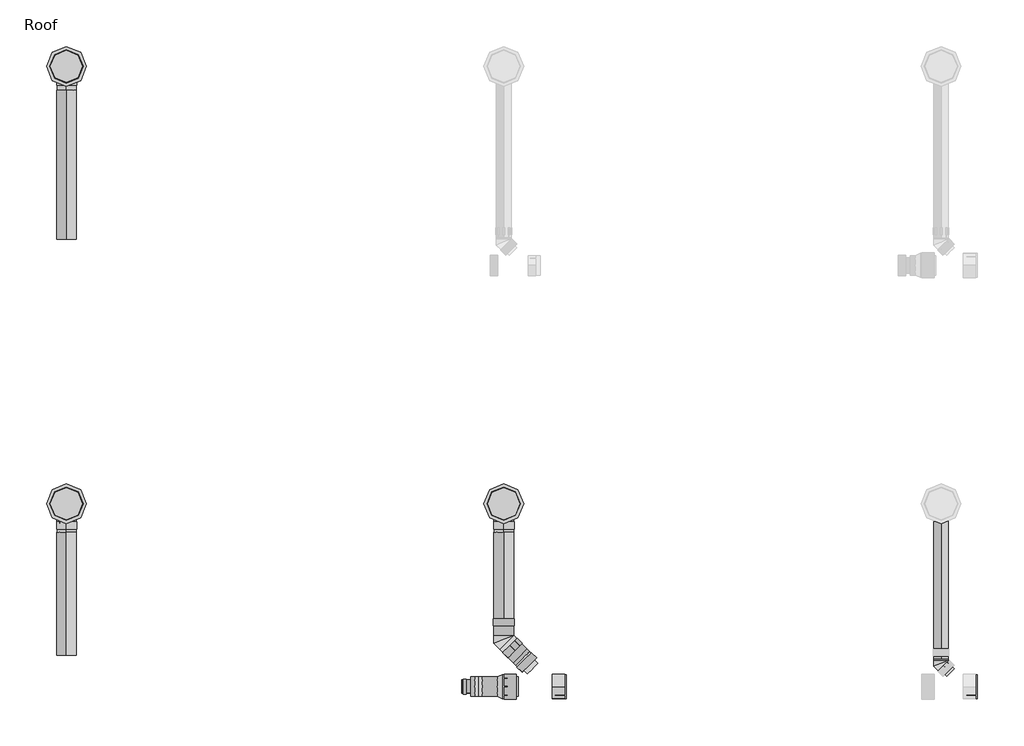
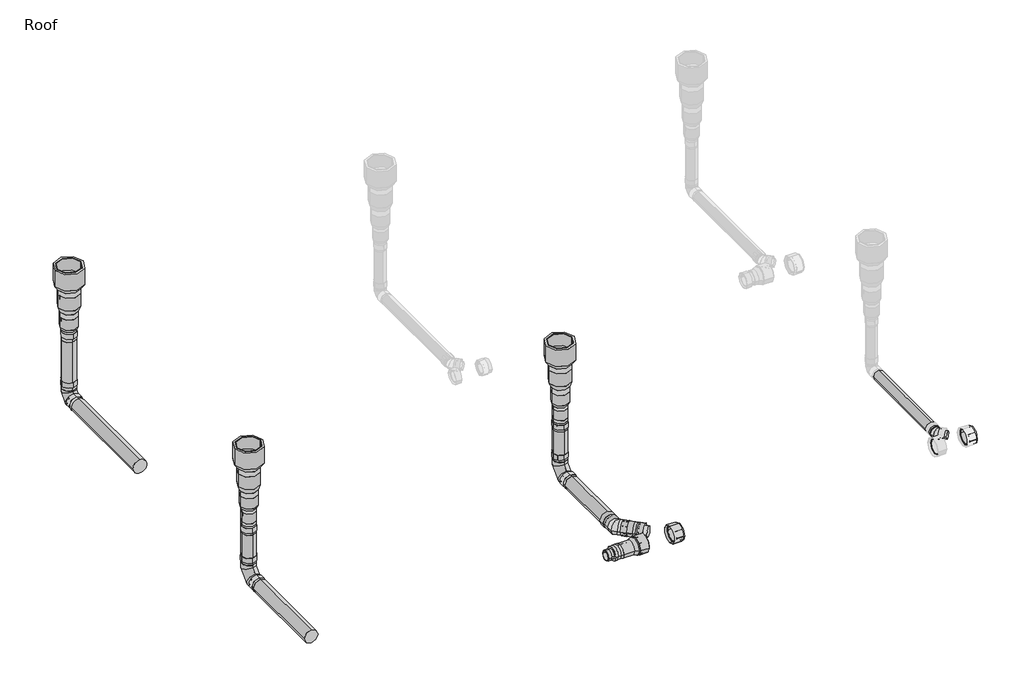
# One storey, part 1 of 2: 72 pipe fittings, 7 pipe segments.
"""IFC4 building model written with IfcOpenShell, lengths in millimetres."""

from ifc_helpers import new_model, si_unit, point, frame, frame_2d, origin, place, context, project, spatial, circle_curve, trimmed, segment, composite_curve, outline, extrude, transform, mapped, element, save
from components import single_bend_deb9c283, single_bend_0c2247d4, std_26593bc8, std_e68f9b3b, std_nested_457d7e35, std_nested_42e1da43, std_nested_46ab66b3, std_nested_0347eb02, std_nested_ff61fb87, std_nested_b22cb0b6, std_nested_3dcc5080, std_nested_a7162979, std_nested_f8058470, std_nested_a1955cf2, std_nested_11fffc4d, std_nested_bf630df5, std_nested_90d89c33, std_nested_8d21ddc5, std_nested_869c05a1, std_nested_4c8aca36, std_nested_1c860d80, std_nested_eee07551, std_nested_e8fa1f76, std_nested_0b464fec, std_nested_b675cc4e, std_nested_34ded061, std_nested_acabc59b, std_nested_76065840, std_nested_33cd05bf, unequal_dcafacf3, unequal_56231cc0

model = new_model("IFC4")

# Units and contexts
model_context = context("Model", 3, world=origin())
ifc_project = project(units=[si_unit("LENGTHUNIT", "METRE", prefix="MILLI")], contexts=[model_context])

# Site, building, storey
site = spatial("IfcSite", under=ifc_project)
building = spatial("IfcBuilding", under=site)
storey = spatial("IfcBuildingStorey", under=building, Name="Roof", Elevation=8000.0)

# Pipe fittings
placement = place(None, origin())
single_bend_shape = single_bend_deb9c283(model_context)
element("IfcPipeFitting", 1, ObjectType="PIF_ST_UN_GM-X compound pipe multi-bend_ACO : single bend", at=placement, inside=storey, context=model_context, shape_type="MappedRepresentation", body=[
    mapped(single_bend_shape, transform((-17814.684142, 6588.0682309, 6367.4522786), x_axis=(0.0, 0.0, -1.0), y_axis=(0.0, -1.0, 0.0), z_axis=(-1.0, 0.0, 0.0))),
])
single_bend_2_shape = single_bend_0c2247d4(model_context)
element("IfcPipeFitting", 2, ObjectType="PIF_ST_UN_GM-X compound pipe multi-bend_ACO : single bend", at=placement, inside=storey, context=model_context, shape_type="MappedRepresentation", body=[
    mapped(single_bend_2_shape, transform((-14814.684142, 3588.0682309, 6367.4522786), x_axis=(0.0, 0.0, -1.0), y_axis=(0.0, -1.0, 0.0), z_axis=(-1.0, 0.0, 0.0))),
])
element("IfcPipeFitting", 3, ObjectType="PIF_ST_UN_GM-X compound pipe multi-bend_ACO : single bend", at=placement, inside=storey, context=model_context, shape_type="MappedRepresentation", body=[
    mapped(single_bend_2_shape, transform((-17814.684142, 3588.0682309, 6367.4522786), x_axis=(0.0, 0.0, -1.0), y_axis=(0.0, -1.0, 0.0), z_axis=(-1.0, 0.0, 0.0))),
])
std_shape = std_26593bc8(model_context)
element("IfcPipeFitting", 4, ObjectType="PIF_ST_UN_GM-X compound pipe multi-optimiser (transition)_ACO : std", at=placement, inside=storey, context=model_context, shape_type="MappedRepresentation", body=[
    mapped(std_shape, transform((-17814.684142, 6588.0682309, 7573.302388), x_axis=(0.0, 0.0, -1.0), y_axis=(1.0, 0.0, 0.0), z_axis=(0.0, -1.0, 0.0))),
])
std_2_shape = std_e68f9b3b(model_context)
element("IfcPipeFitting", 5, ObjectType="PIF_ST_UN_GM-X compound pipe multi-optimiser (transition)_ACO : std", at=placement, inside=storey, context=model_context, shape_type="MappedRepresentation", body=[
    mapped(std_2_shape, transform((-14814.684142, 3588.0682309, 7573.302388), x_axis=(0.0, 0.0, -1.0), y_axis=(1.0, 0.0, 0.0), z_axis=(0.0, -1.0, 0.0))),
])
element("IfcPipeFitting", 6, ObjectType="PIF_ST_UN_GM-X compound pipe multi-optimiser (transition)_ACO : std", at=placement, inside=storey, context=model_context, shape_type="MappedRepresentation", body=[
    mapped(std_2_shape, transform((-17814.684142, 3588.0682309, 7573.302388), x_axis=(0.0, 0.0, -1.0), y_axis=(1.0, 0.0, 0.0), z_axis=(0.0, -1.0, 0.0))),
])
std_nested_shape = std_nested_457d7e35(model_context)
element("IfcPipeFitting", 7, ObjectType="ZZZ_do not use_PIF_GEN_WPB_GM-X (compound) pipe seal_ACO : std (nested)", at=placement, inside=storey, context=model_context, shape_type="MappedRepresentation", body=[
    mapped(std_nested_shape, transform((-17814.684142, 6426.6682309, 6367.4522786), x_axis=(0.0, 0.0, -1.0), y_axis=(1.0, 0.0, 0.0), z_axis=(0.0, -1.0, 0.0))),
])
std_nested_2_shape = std_nested_42e1da43(model_context)
element("IfcPipeFitting", 8, ObjectType="ZZZ_do not use_PIF_GEN_WPB_GM-X (compound) pipe seal_ACO : std (nested)", at=placement, inside=storey, context=model_context, shape_type="MappedRepresentation", body=[
    mapped(std_nested_2_shape, transform((-17814.684142, 6588.0682309, 6528.8522786), x_axis=(0.0, -1.0, 0.0), y_axis=(1.0, 0.0, 0.0), z_axis=(0.0, 0.0, 1.0))),
])
element("IfcPipeFitting", 9, ObjectType="ZZZ_do not use_PIF_GEN_WPB_GM-X (compound) pipe seal_ACO : std (nested)", at=placement, inside=storey, context=model_context, shape_type="MappedRepresentation", body=[
    mapped(std_nested_2_shape, transform((-14665.3431898, 2508.0561932, 6367.4522786), x_axis=(0.7071067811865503, 0.7071067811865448, 0.0), y_axis=(0.0, 0.0, -1.0000000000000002), z_axis=(-0.7071067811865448, 0.7071067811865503, 0.0))),
])
element("IfcPipeFitting", 10, ObjectType="ZZZ_do not use_PIF_GEN_WPB_GM-X (compound) pipe seal_ACO : std (nested)", at=placement, inside=storey, context=model_context, shape_type="MappedRepresentation", body=[
    mapped(std_nested_2_shape, transform((-14961.3949216, 2334.1079251, 6367.4522786), x_axis=(0.0, 1.0, 0.0), y_axis=(0.0, 0.0, -1.0), z_axis=(-1.0, 0.0, 0.0))),
])
std_nested_3_shape = std_nested_46ab66b3(model_context)
element("IfcPipeFitting", 11, ObjectType="ZZZ_do not use_PIF_GEN_WPB_GM-X (compound) pipe seal_ACO : std (nested)", at=placement, inside=storey, context=model_context, shape_type="MappedRepresentation", body=[
    mapped(std_nested_3_shape, transform((-11924.8780094, 2334.1079251, 6367.4522786), x_axis=(0.0, 1.0, 0.0), y_axis=(0.0, 0.0, -1.0), z_axis=(-1.0, 0.0, 0.0))),
])
element("IfcPipeFitting", 12, ObjectType="ZZZ_do not use_PIF_GEN_WPB_GM-X (compound) pipe seal_ACO : std (nested)", at=placement, inside=storey, context=model_context, shape_type="MappedRepresentation", body=[
    mapped(std_nested_3_shape, transform((-14791.3949216, 2334.1079251, 6367.4522786), x_axis=(0.0, 1.0, 0.0), y_axis=(0.0, 0.0, -1.0), z_axis=(-1.0, 0.0, 0.0))),
])
std_nested_4_shape = std_nested_0347eb02(model_context)
element("IfcPipeFitting", 13, ObjectType="ZZZ_do not use_PIF_GEN_WPB_GM-X (compound) pipe seal_ACO : std (nested)", at=placement, inside=storey, context=model_context, shape_type="MappedRepresentation", body=[
    mapped(std_nested_4_shape, transform((-11814.684142, 2579.9140576, 6367.4522786), x_axis=(-1.0, 0.0, 0.0), y_axis=(0.0, 0.0, 1.0000000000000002), z_axis=(0.0, 1.0, 0.0))),
])
element("IfcPipeFitting", 14, ObjectType="ZZZ_do not use_PIF_GEN_WPB_GM-X (compound) pipe seal_ACO : std (nested)", at=placement, inside=storey, context=model_context, shape_type="MappedRepresentation", body=[
    mapped(std_nested_4_shape, transform((-11789.2282978, 2468.4582135, 6367.4522786), x_axis=(0.7071067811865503, 0.7071067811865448, 0.0), y_axis=(0.0, 0.0, -1.0000000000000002), z_axis=(-0.7071067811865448, 0.7071067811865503, 0.0))),
])
std_nested_5_shape = std_nested_ff61fb87(model_context)
element("IfcPipeFitting", 15, ObjectType="ZZZ_do not use_PIF_ST_WPB_GM-X compound pipe clamp_ACO : std (nested)", at=placement, inside=storey, context=model_context, shape_type="MappedRepresentation", body=[
    mapped(std_nested_5_shape, transform((-17814.684142, 6426.6682309, 6367.4522786), x_axis=(0.0, 0.0, -1.0), y_axis=(1.0, 0.0, 0.0), z_axis=(0.0, -1.0, 0.0))),
])
std_nested_6_shape = std_nested_b22cb0b6(model_context)
element("IfcPipeFitting", 16, ObjectType="ZZZ_do not use_PIF_GEN_WPB_GM-X (compound) pipe seal_ACO : std (nested)", at=placement, inside=storey, context=model_context, shape_type="MappedRepresentation", body=[
    mapped(std_nested_6_shape, transform((-11564.8780094, 2334.1079251, 6367.4522786), x_axis=(0.0, 0.0, -1.0), y_axis=(0.0, 1.0, 0.0), z_axis=(1.0, 0.0, 0.0))),
])
element("IfcPipeFitting", 17, ObjectType="ZZZ_do not use_PIF_GEN_WPB_GM-X (compound) pipe seal_ACO : std (nested)", at=placement, inside=storey, context=model_context, shape_type="MappedRepresentation", body=[
    mapped(std_nested_6_shape, transform((-14386.3949216, 2334.1079251, 6367.4522786), x_axis=(0.0, 0.0, -1.0), y_axis=(0.0, 1.0, 0.0), z_axis=(1.0, 0.0, 0.0))),
])
std_nested_7_shape = std_nested_3dcc5080(model_context)
element("IfcPipeFitting", 18, ObjectType="ZZZ_do not use_PIF_GEN_WPB_GM-X (compound) pipe seal_ACO : std (nested)", at=placement, inside=storey, context=model_context, shape_type="MappedRepresentation", body=[
    mapped(std_nested_7_shape, transform((-17814.684142, 6588.0682309, 7428.302388), x_axis=(-1.0, 0.0, 0.0), y_axis=(0.0, -1.0, 0.0), z_axis=(0.0, 0.0, 1.0))),
])
element("IfcPipeFitting", 19, ObjectType="ZZZ_do not use_PIF_GEN_WPB_GM-X (compound) pipe seal_ACO : std (nested)", at=placement, inside=storey, context=model_context, shape_type="MappedRepresentation", body=[
    mapped(std_nested_7_shape, transform((-14814.684142, 3588.0682309, 7428.302388), x_axis=(-1.0, 0.0, 0.0), y_axis=(0.0, -1.0, 0.0), z_axis=(0.0, 0.0, 1.0))),
])
element("IfcPipeFitting", 20, ObjectType="ZZZ_do not use_PIF_GEN_WPB_GM-X (compound) pipe seal_ACO : std (nested)", at=placement, inside=storey, context=model_context, shape_type="MappedRepresentation", body=[
    mapped(std_nested_7_shape, transform((-17814.684142, 3588.0682309, 7428.302388), x_axis=(-1.0, 0.0, 0.0), y_axis=(0.0, -1.0, 0.0), z_axis=(0.0, 0.0, 1.0))),
])
element("IfcPipeFitting", 21, ObjectType="ZZZ_do not use_PIF_GEN_WPB_GM-X (compound) pipe seal_ACO : std (nested)", at=placement, inside=storey, context=model_context, shape_type="MappedRepresentation", body=[
    mapped(std_nested_3_shape, transform((-17814.684142, 6588.0682309, 7193.302388), x_axis=(-1.0, 0.0, 0.0), y_axis=(0.0, -1.0, 0.0), z_axis=(0.0, 0.0, 1.0))),
])
element("IfcPipeFitting", 22, ObjectType="ZZZ_do not use_PIF_GEN_WPB_GM-X (compound) pipe seal_ACO : std (nested)", at=placement, inside=storey, context=model_context, shape_type="MappedRepresentation", body=[
    mapped(std_nested_3_shape, transform((-14814.684142, 3588.0682309, 7193.302388), x_axis=(-1.0, 0.0, 0.0), y_axis=(0.0, -1.0, 0.0), z_axis=(0.0, 0.0, 1.0))),
])
element("IfcPipeFitting", 23, ObjectType="ZZZ_do not use_PIF_GEN_WPB_GM-X (compound) pipe seal_ACO : std (nested)", at=placement, inside=storey, context=model_context, shape_type="MappedRepresentation", body=[
    mapped(std_nested_3_shape, transform((-17814.684142, 3588.0682309, 7193.302388), x_axis=(-1.0, 0.0, 0.0), y_axis=(0.0, -1.0, 0.0), z_axis=(0.0, 0.0, 1.0))),
])
element("IfcPipeFitting", 24, ObjectType="ZZZ_do not use_PIF_GEN_WPB_GM-X (compound) pipe seal_ACO : std (nested)", at=placement, inside=storey, context=model_context, shape_type="MappedRepresentation", body=[
    mapped(std_nested_shape, transform((-17814.684142, 6588.0682309, 6953.302388), x_axis=(0.0, 1.0, 0.0), y_axis=(1.0, 0.0, 0.0), z_axis=(0.0, 0.0, -1.0))),
])
std_nested_8_shape = std_nested_a7162979(model_context)
element("IfcPipeFitting", 25, ObjectType="ZZZ_do not use_PIF_GEN_WPB_GM-X (compound) pipe seal_ACO : std (nested)", at=placement, inside=storey, context=model_context, shape_type="MappedRepresentation", body=[
    mapped(std_nested_8_shape, transform((-17814.684142, 6588.0682309, 7693.302388), x_axis=(-1.0, 0.0, 0.0), y_axis=(0.0, -1.0, 0.0), z_axis=(0.0, 0.0, 1.0))),
])
element("IfcPipeFitting", 26, ObjectType="ZZZ_do not use_PIF_GEN_WPB_GM-X (compound) pipe seal_ACO : std (nested)", at=placement, inside=storey, context=model_context, shape_type="MappedRepresentation", body=[
    mapped(std_nested_8_shape, transform((-14814.684142, 3588.0682309, 7693.302388), x_axis=(-1.0, 0.0, 0.0), y_axis=(0.0, -1.0, 0.0), z_axis=(0.0, 0.0, 1.0))),
])
element("IfcPipeFitting", 27, ObjectType="ZZZ_do not use_PIF_GEN_WPB_GM-X (compound) pipe seal_ACO : std (nested)", at=placement, inside=storey, context=model_context, shape_type="MappedRepresentation", body=[
    mapped(std_nested_8_shape, transform((-17814.684142, 3588.0682309, 7693.302388), x_axis=(-1.0, 0.0, 0.0), y_axis=(0.0, -1.0, 0.0), z_axis=(0.0, 0.0, 1.0))),
])
element("IfcPipeFitting", 28, ObjectType="ZZZ_do not use_PIF_GEN_WPB_GM-X (compound) pipe seal_ACO : std (nested)", at=placement, inside=storey, context=model_context, shape_type="MappedRepresentation", body=[
    mapped(std_nested_2_shape, transform((-14814.684142, 3588.0682309, 7023.302388), x_axis=(-1.0, 0.0, 0.0), y_axis=(0.0, -1.0, 0.0), z_axis=(0.0, 0.0, 1.0))),
])
element("IfcPipeFitting", 29, ObjectType="ZZZ_do not use_PIF_GEN_WPB_GM-X (compound) pipe seal_ACO : std (nested)", at=placement, inside=storey, context=model_context, shape_type="MappedRepresentation", body=[
    mapped(std_nested_2_shape, transform((-17814.684142, 3588.0682309, 7023.302388), x_axis=(-1.0, 0.0, 0.0), y_axis=(0.0, -1.0, 0.0), z_axis=(0.0, 0.0, 1.0))),
])
std_nested_9_shape = std_nested_f8058470(model_context)
element("IfcPipeFitting", 30, ObjectType="ZZZ_do not use_PIF_GEN_WPB_GM-X (compound) pipe seal_ACO : std (nested)", at=placement, inside=storey, context=model_context, shape_type="MappedRepresentation", body=[
    mapped(std_nested_9_shape, transform((-14814.684142, 3588.0682309, 6563.0522786), x_axis=(0.0, -1.0, 0.0), y_axis=(1.0, 0.0, 0.0), z_axis=(0.0, 0.0, 1.0))),
])
element("IfcPipeFitting", 31, ObjectType="ZZZ_do not use_PIF_GEN_WPB_GM-X (compound) pipe seal_ACO : std (nested)", at=placement, inside=storey, context=model_context, shape_type="MappedRepresentation", body=[
    mapped(std_nested_9_shape, transform((-14814.684142, 2787.8971454, 6367.4522786), x_axis=(-1.0, 0.0, 0.0), y_axis=(0.0, 0.0, 1.0000000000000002), z_axis=(0.0, 1.0, 0.0))),
])
element("IfcPipeFitting", 32, ObjectType="ZZZ_do not use_PIF_GEN_WPB_GM-X (compound) pipe seal_ACO : std (nested)", at=placement, inside=storey, context=model_context, shape_type="MappedRepresentation", body=[
    mapped(std_nested_9_shape, transform((-17814.684142, 3588.0682309, 6563.0522786), x_axis=(0.0, -1.0, 0.0), y_axis=(1.0, 0.0, 0.0), z_axis=(0.0, 0.0, 1.0))),
])
element("IfcPipeFitting", 33, ObjectType="ZZZ_do not use_PIF_GEN_WPB_GM-X (compound) pipe seal_ACO : std (nested)", at=placement, inside=storey, context=model_context, shape_type="MappedRepresentation", body=[
    mapped(std_nested_9_shape, transform((-14764.3381391, 2607.0511426, 6367.4522786), x_axis=(0.7071067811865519, 0.7071067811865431, 0.0), y_axis=(0.0, 0.0, -1.0), z_axis=(-0.7071067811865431, 0.7071067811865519, 0.0))),
])
element("IfcPipeFitting", 34, ObjectType="ZZZ_do not use_PIF_GEN_WPB_GM-X (compound) pipe seal_ACO : std (nested)", at=placement, inside=storey, context=model_context, shape_type="MappedRepresentation", body=[
    mapped(std_nested_9_shape, transform((-15101.3949216, 2334.1079251, 6367.4522786), x_axis=(0.0, 1.0, 0.0), y_axis=(0.0, 0.0, -1.0), z_axis=(-1.0, 0.0, 0.0))),
])
std_nested_10_shape = std_nested_a1955cf2(model_context)
element("IfcPipeFitting", 35, ObjectType="ZZZ_do not use_PIF_GEN_WPB_GM-X (compound) pipe seal_ACO : std (nested)", at=placement, inside=storey, context=model_context, shape_type="MappedRepresentation", body=[
    mapped(std_nested_10_shape, transform((-14814.684142, 3392.4682309, 6367.4522786), x_axis=(0.0, 0.0, -1.0), y_axis=(1.0, 0.0, 0.0), z_axis=(0.0, -1.0, 0.0))),
])
element("IfcPipeFitting", 36, ObjectType="ZZZ_do not use_PIF_GEN_WPB_GM-X (compound) pipe seal_ACO : std (nested)", at=placement, inside=storey, context=model_context, shape_type="MappedRepresentation", body=[
    mapped(std_nested_10_shape, transform((-17814.684142, 3392.4682309, 6367.4522786), x_axis=(0.0, 0.0, -1.0), y_axis=(1.0, 0.0, 0.0), z_axis=(0.0, -1.0, 0.0))),
])
element("IfcPipeFitting", 37, ObjectType="ZZZ_do not use_PIF_GEN_WPB_GM-X (compound) pipe seal_ACO : std (nested)", at=placement, inside=storey, context=model_context, shape_type="MappedRepresentation", body=[
    mapped(std_nested_10_shape, transform((-14814.684142, 3588.0682309, 6808.302388), x_axis=(0.0, 1.0, 0.0), y_axis=(1.0, 0.0, 0.0), z_axis=(0.0, 0.0, -1.0))),
])
element("IfcPipeFitting", 38, ObjectType="ZZZ_do not use_PIF_GEN_WPB_GM-X (compound) pipe seal_ACO : std (nested)", at=placement, inside=storey, context=model_context, shape_type="MappedRepresentation", body=[
    mapped(std_nested_10_shape, transform((-17814.684142, 3588.0682309, 6808.302388), x_axis=(0.0, 1.0, 0.0), y_axis=(1.0, 0.0, 0.0), z_axis=(0.0, 0.0, -1.0))),
])
std_nested_11_shape = std_nested_11fffc4d(model_context)
element("IfcPipeFitting", 39, ObjectType="ZZZ_do not use_PIF_ST_WPB_GM-X compound pipe clamp_ACO : std (nested)", at=placement, inside=storey, context=model_context, shape_type="MappedRepresentation", body=[
    mapped(std_nested_11_shape, transform((-14814.684142, 3392.4682309, 6367.4522786), x_axis=(0.0, 0.0, -1.0), y_axis=(1.0, 0.0, 0.0), z_axis=(0.0, -1.0, 0.0))),
])
element("IfcPipeFitting", 40, ObjectType="ZZZ_do not use_PIF_ST_WPB_GM-X compound pipe clamp_ACO : std (nested)", at=placement, inside=storey, context=model_context, shape_type="MappedRepresentation", body=[
    mapped(std_nested_11_shape, transform((-17814.684142, 3392.4682309, 6367.4522786), x_axis=(0.0, 0.0, -1.0), y_axis=(1.0, 0.0, 0.0), z_axis=(0.0, -1.0, 0.0))),
])
std_nested_12_shape = std_nested_bf630df5(model_context)
element("IfcPipeFitting", 41, ObjectType="ZZZ_do not use_PIF_ST_WPB_GM-X compound pipe clamp_ACO : std (nested)", at=placement, inside=storey, context=model_context, shape_type="MappedRepresentation", body=[
    mapped(std_nested_12_shape, transform((-17814.684142, 6588.0682309, 6528.8522786), x_axis=(0.0, -1.0, 0.0), y_axis=(1.0, 0.0, 0.0), z_axis=(0.0, 0.0, 1.0))),
])
element("IfcPipeFitting", 42, ObjectType="ZZZ_do not use_PIF_ST_WPB_GM-X compound pipe clamp_ACO : std (nested)", at=placement, inside=storey, context=model_context, shape_type="MappedRepresentation", body=[
    mapped(std_nested_12_shape, transform((-14665.3431898, 2508.0561932, 6367.4522786), x_axis=(0.7071067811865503, 0.7071067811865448, 0.0), y_axis=(0.0, 0.0, -1.0000000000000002), z_axis=(-0.7071067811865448, 0.7071067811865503, 0.0))),
])
element("IfcPipeFitting", 43, ObjectType="ZZZ_do not use_PIF_ST_WPB_GM-X compound pipe clamp_ACO : std (nested)", at=placement, inside=storey, context=model_context, shape_type="MappedRepresentation", body=[
    mapped(std_nested_12_shape, transform((-14814.684142, 3588.0682309, 6563.0522786), x_axis=(0.0, -1.0, 0.0), y_axis=(1.0, 0.0, 0.0), z_axis=(0.0, 0.0, 1.0))),
])
element("IfcPipeFitting", 44, ObjectType="ZZZ_do not use_PIF_ST_WPB_GM-X compound pipe clamp_ACO : std (nested)", at=placement, inside=storey, context=model_context, shape_type="MappedRepresentation", body=[
    mapped(std_nested_12_shape, transform((-17814.684142, 3588.0682309, 6563.0522786), x_axis=(0.0, -1.0, 0.0), y_axis=(1.0, 0.0, 0.0), z_axis=(0.0, 0.0, 1.0))),
])
element("IfcPipeFitting", 45, ObjectType="ZZZ_do not use_PIF_ST_WPB_GM-X compound pipe clamp_ACO : std (nested)", at=placement, inside=storey, context=model_context, shape_type="MappedRepresentation", body=[
    mapped(std_nested_12_shape, transform((-14814.684142, 2787.8971454, 6367.4522786), x_axis=(-1.0, 0.0, 0.0), y_axis=(0.0, 0.0, 1.0000000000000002), z_axis=(0.0, 1.0, 0.0))),
])
element("IfcPipeFitting", 46, ObjectType="ZZZ_do not use_PIF_ST_WPB_GM-X compound pipe clamp_ACO : std (nested)", at=placement, inside=storey, context=model_context, shape_type="MappedRepresentation", body=[
    mapped(std_nested_12_shape, transform((-14764.3381391, 2607.0511426, 6367.4522786), x_axis=(0.7071067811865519, 0.7071067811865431, 0.0), y_axis=(0.0, 0.0, -1.0), z_axis=(-0.7071067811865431, 0.7071067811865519, 0.0))),
])
std_nested_13_shape = std_nested_90d89c33(model_context)
element("IfcPipeFitting", 47, ObjectType="ZZZ_do not use_PIF_ST_WPB_GM-X compound pipe clamp_ACO : std (nested)", at=placement, inside=storey, context=model_context, shape_type="MappedRepresentation", body=[
    mapped(std_nested_13_shape, transform((-14791.3949216, 2334.1079251, 6367.4522786), x_axis=(0.0, 1.0, 0.0), y_axis=(0.0, 0.0, -1.0), z_axis=(-1.0, 0.0, 0.0))),
])
std_nested_14_shape = std_nested_8d21ddc5(model_context)
element("IfcPipeFitting", 48, ObjectType="ZZZ_do not use_PIF_ST_WPB_GM-X compound pipe clamp_ACO : std (nested)", at=placement, inside=storey, context=model_context, shape_type="MappedRepresentation", body=[
    mapped(std_nested_14_shape, transform((-14386.3949216, 2334.1079251, 6367.4522786), x_axis=(0.0, 0.0, -1.0), y_axis=(0.0, 1.0, 0.0), z_axis=(1.0, 0.0, 0.0))),
])
element("IfcPipeFitting", 49, ObjectType="ZZZ_do not use_PIF_ST_WPB_GM-X compound pipe clamp_ACO : std (nested)", at=placement, inside=storey, context=model_context, shape_type="MappedRepresentation", body=[
    mapped(std_nested_5_shape, transform((-17814.684142, 6588.0682309, 6953.302388), x_axis=(0.0, 1.0, 0.0), y_axis=(1.0, 0.0, 0.0), z_axis=(0.0, 0.0, -1.0))),
])
element("IfcPipeFitting", 50, ObjectType="ZZZ_do not use_PIF_ST_WPB_GM-X compound pipe clamp_ACO : std (nested)", at=placement, inside=storey, context=model_context, shape_type="MappedRepresentation", body=[
    mapped(std_nested_11_shape, transform((-14814.684142, 3588.0682309, 6808.302388), x_axis=(0.0, 1.0, 0.0), y_axis=(1.0, 0.0, 0.0), z_axis=(0.0, 0.0, -1.0))),
])
element("IfcPipeFitting", 51, ObjectType="ZZZ_do not use_PIF_ST_WPB_GM-X compound pipe clamp_ACO : std (nested)", at=placement, inside=storey, context=model_context, shape_type="MappedRepresentation", body=[
    mapped(std_nested_11_shape, transform((-17814.684142, 3588.0682309, 6808.302388), x_axis=(0.0, 1.0, 0.0), y_axis=(1.0, 0.0, 0.0), z_axis=(0.0, 0.0, -1.0))),
])
std_nested_15_shape = std_nested_869c05a1(model_context)
element("IfcPipeFitting", 52, ObjectType="ZZZ_do not use_PIF_ST_WPB_GM-X compound pipe bend_ACO : std (nested)", at=placement, inside=storey, context=model_context, shape_type="MappedRepresentation", body=[
    mapped(std_nested_15_shape, transform((-17814.684142, 6588.0682309, 6367.4522786), x_axis=(0.0, 0.0, -1.0), y_axis=(0.0, -1.0, 0.0), z_axis=(-1.0, 0.0, 0.0))),
])
std_nested_16_shape = std_nested_4c8aca36(model_context)
element("IfcPipeFitting", 53, ObjectType="ZZZ_do not use_PIF_ST_WPB_GM-X compound pipe optimiser_ACO : std (nested)", at=placement, inside=storey, context=model_context, shape_type="MappedRepresentation", body=[
    mapped(std_nested_16_shape, transform((-17814.684142, 6588.0682309, 7573.302388), x_axis=(0.0, 0.0, -1.0), y_axis=(1.0, 0.0, 0.0), z_axis=(0.0, -1.0, 0.0))),
])
element("IfcPipeFitting", 54, ObjectType="ZZZ_do not use_PIF_ST_WPB_GM-X compound pipe optimiser_ACO : std (nested)", at=placement, inside=storey, context=model_context, shape_type="MappedRepresentation", body=[
    mapped(std_nested_16_shape, transform((-14814.684142, 3588.0682309, 7573.302388), x_axis=(0.0, 0.0, -1.0), y_axis=(1.0, 0.0, 0.0), z_axis=(0.0, -1.0, 0.0))),
])
element("IfcPipeFitting", 55, ObjectType="ZZZ_do not use_PIF_ST_WPB_GM-X compound pipe optimiser_ACO : std (nested)", at=placement, inside=storey, context=model_context, shape_type="MappedRepresentation", body=[
    mapped(std_nested_16_shape, transform((-17814.684142, 3588.0682309, 7573.302388), x_axis=(0.0, 0.0, -1.0), y_axis=(1.0, 0.0, 0.0), z_axis=(0.0, -1.0, 0.0))),
])
std_nested_17_shape = std_nested_1c860d80(model_context)
element("IfcPipeFitting", 56, ObjectType="ZZZ_do not use_PIF_ST_WPB_GM-X compound pipe optimiser_ACO : std (nested)", at=placement, inside=storey, context=model_context, shape_type="MappedRepresentation", body=[
    mapped(std_nested_17_shape, transform((-17814.684142, 6588.0682309, 7348.302388), x_axis=(0.0, 0.0, -1.0), y_axis=(1.0, 0.0, 0.0), z_axis=(0.0, -1.0, 0.0))),
])
element("IfcPipeFitting", 57, ObjectType="ZZZ_do not use_PIF_ST_WPB_GM-X compound pipe optimiser_ACO : std (nested)", at=placement, inside=storey, context=model_context, shape_type="MappedRepresentation", body=[
    mapped(std_nested_17_shape, transform((-14814.684142, 3588.0682309, 7348.302388), x_axis=(0.0, 0.0, -1.0), y_axis=(1.0, 0.0, 0.0), z_axis=(0.0, -1.0, 0.0))),
])
element("IfcPipeFitting", 58, ObjectType="ZZZ_do not use_PIF_ST_WPB_GM-X compound pipe optimiser_ACO : std (nested)", at=placement, inside=storey, context=model_context, shape_type="MappedRepresentation", body=[
    mapped(std_nested_17_shape, transform((-17814.684142, 3588.0682309, 7348.302388), x_axis=(0.0, 0.0, -1.0), y_axis=(1.0, 0.0, 0.0), z_axis=(0.0, -1.0, 0.0))),
])
std_nested_18_shape = std_nested_eee07551(model_context)
element("IfcPipeFitting", 59, ObjectType="ZZZ_do not use_PIF_ST_WPB_GM-X compound pipe optimiser_ACO : std (nested)", at=placement, inside=storey, context=model_context, shape_type="MappedRepresentation", body=[
    mapped(std_nested_18_shape, transform((-17814.684142, 6588.0682309, 7118.302388), x_axis=(0.0, 0.0, -1.0), y_axis=(1.0, 0.0, 0.0), z_axis=(0.0, -1.0, 0.0))),
])
element("IfcPipeFitting", 60, ObjectType="ZZZ_do not use_PIF_ST_WPB_GM-X compound pipe optimiser_ACO : std (nested)", at=placement, inside=storey, context=model_context, shape_type="MappedRepresentation", body=[
    mapped(std_nested_18_shape, transform((-14814.684142, 3588.0682309, 7118.302388), x_axis=(0.0, 0.0, -1.0), y_axis=(1.0, 0.0, 0.0), z_axis=(0.0, -1.0, 0.0))),
])
element("IfcPipeFitting", 61, ObjectType="ZZZ_do not use_PIF_ST_WPB_GM-X compound pipe optimiser_ACO : std (nested)", at=placement, inside=storey, context=model_context, shape_type="MappedRepresentation", body=[
    mapped(std_nested_18_shape, transform((-17814.684142, 3588.0682309, 7118.302388), x_axis=(0.0, 0.0, -1.0), y_axis=(1.0, 0.0, 0.0), z_axis=(0.0, -1.0, 0.0))),
])
std_nested_19_shape = std_nested_e8fa1f76(model_context)
element("IfcPipeFitting", 62, ObjectType="ZZZ_do not use_PIF_ST_WPB_GM-X compound pipe bend_ACO : std (nested)", at=placement, inside=storey, context=model_context, shape_type="MappedRepresentation", body=[
    mapped(std_nested_19_shape, transform((-11814.684142, 2493.9140576, 6367.4522786), x_axis=(-0.7071067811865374, 0.7071067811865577, 0.0), y_axis=(0.7071067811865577, 0.7071067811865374, 0.0), z_axis=(0.0, 0.0, -1.0))),
])
std_nested_20_shape = std_nested_0b464fec(model_context)
element("IfcPipeFitting", 63, ObjectType="ZZZ_do not use_PIF_ST_WPB_GM-X compound pipe bend_ACO : std (nested)", at=placement, inside=storey, context=model_context, shape_type="MappedRepresentation", body=[
    mapped(std_nested_20_shape, transform((-14814.684142, 3588.0682309, 6367.4522786), x_axis=(0.0, 0.0, -1.0), y_axis=(0.0, -1.0, 0.0), z_axis=(-1.0, 0.0, 0.0))),
])
element("IfcPipeFitting", 64, ObjectType="ZZZ_do not use_PIF_ST_WPB_GM-X compound pipe bend_ACO : std (nested)", at=placement, inside=storey, context=model_context, shape_type="MappedRepresentation", body=[
    mapped(std_nested_20_shape, transform((-17814.684142, 3588.0682309, 6367.4522786), x_axis=(0.0, 0.0, -1.0), y_axis=(0.0, -1.0, 0.0), z_axis=(-1.0, 0.0, 0.0))),
])
std_nested_21_shape = std_nested_b675cc4e(model_context)
element("IfcPipeFitting", 65, ObjectType="ZZZ_do not use_PIF_ST_WPB_GM-X compound pipe bend_ACO : std (nested)", at=placement, inside=storey, context=model_context, shape_type="MappedRepresentation", body=[
    mapped(std_nested_21_shape, transform((-14814.684142, 2657.3971454, 6367.4522786), x_axis=(-0.7071067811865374, 0.7071067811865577, 0.0), y_axis=(0.7071067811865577, 0.7071067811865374, 0.0), z_axis=(0.0, 0.0, -1.0))),
])
std_nested_22_shape = std_nested_34ded061(model_context)
element("IfcPipeFitting", 66, ObjectType="ZZZ_do not use_PIF_ST_WPB_GM-X compound pipe reducer_ACO : std (nested)", at=placement, inside=storey, context=model_context, shape_type="MappedRepresentation", body=[
    mapped(std_nested_22_shape, transform((-14615.8457151, 2458.5587186, 6367.4522786), x_axis=(-0.7071067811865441, 0.7071067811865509, 0.0), y_axis=(-0.7071067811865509, -0.7071067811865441, 0.0), z_axis=(0.0, 0.0, 1.0))),
])
std_nested_23_shape = std_nested_acabc59b(model_context)
element("IfcPipeFitting", 67, ObjectType="ZZZ_do not use_PIF_ST_WPB_GM-X compound pipe optimiser_ACO : std (nested)", at=placement, inside=storey, context=model_context, shape_type="MappedRepresentation", body=[
    mapped(std_nested_23_shape, transform((-14814.684142, 3588.0682309, 6953.302388), x_axis=(0.0, 0.0, -1.0), y_axis=(1.0, 0.0, 0.0), z_axis=(0.0, -1.0, 0.0))),
])
element("IfcPipeFitting", 68, ObjectType="ZZZ_do not use_PIF_ST_WPB_GM-X compound pipe optimiser_ACO : std (nested)", at=placement, inside=storey, context=model_context, shape_type="MappedRepresentation", body=[
    mapped(std_nested_23_shape, transform((-17814.684142, 3588.0682309, 6953.302388), x_axis=(0.0, 0.0, -1.0), y_axis=(1.0, 0.0, 0.0), z_axis=(0.0, -1.0, 0.0))),
])
std_nested_24_shape = std_nested_76065840(model_context)
element("IfcPipeFitting", 69, ObjectType="ZZZ_do not use_PIF_ST_WPB_GM-X compound pipe reducer_ACO : std (nested)", at=placement, inside=storey, context=model_context, shape_type="MappedRepresentation", body=[
    mapped(std_nested_24_shape, transform((-14891.3949216, 2334.1079251, 6367.4522786), x_axis=(1.0, 0.0, 0.0), y_axis=(0.0, 1.0, 0.0), z_axis=(0.0, 0.0, 1.0))),
])
std_nested_25_shape = std_nested_33cd05bf(model_context)
element("IfcPipeFitting", 70, ObjectType="ZZZ_do not use_PIF_ST_WPB_GM-X compound pipe reducer_ACO : std (nested)", at=placement, inside=storey, context=model_context, shape_type="MappedRepresentation", body=[
    mapped(std_nested_25_shape, transform((-14716.3949216, 2334.1079251, 6367.4522786), x_axis=(1.0, 0.0, 0.0), y_axis=(0.0, 1.0, 0.0), z_axis=(0.0, 0.0, 1.0))),
])
unequal_shape = unequal_dcafacf3(model_context)
element("IfcPipeFitting", 71, ObjectType="PIF_ST_UN_GM-X compound pipe multi-tee_ACO : unequal", at=placement, inside=storey, context=model_context, shape_type="MappedRepresentation", body=[
    mapped(unequal_shape, transform((-11654.8780094, 2334.1079251, 6367.4522786), x_axis=(1.0, 0.0, 0.0), y_axis=(0.0, 1.0, 0.0), z_axis=(0.0, 0.0, 1.0))),
])
unequal_2_shape = unequal_56231cc0(model_context)
element("IfcPipeFitting", 72, ObjectType="PIF_ST_UN_GM-X compound pipe multi-tee_ACO : unequal", at=placement, inside=storey, context=model_context, shape_type="MappedRepresentation", body=[
    mapped(unequal_2_shape, transform((-14491.3949216, 2334.1079251, 6367.4522786), x_axis=(1.0, 0.0, 0.0), y_axis=(0.0, 1.0, 0.0), z_axis=(0.0, 0.0, 1.0))),
])

# Pipe segments
element("IfcPipeSegment", 73, ObjectType="GM-X compound pipe", at=placement, inside=storey, context=model_context, shape_type="SweptSolid", body=[
    extrude(outline(composite_curve([segment(trimmed(circle_curve(frame_2d((-17814.684142, 6588.0682309)), 67.0), [point((-17747.684142, 6588.0682309))], [point((-17814.684142, 6521.0682309))], False, "CARTESIAN"), True, "CONTINUOUS"), segment(trimmed(circle_curve(frame_2d((-17814.684142, 6588.0682309)), 67.0), [point((-17814.684142, 6521.0682309))], [point((-17881.684142, 6588.0682309))], False, "CARTESIAN"), True, "CONTINUOUS"), segment(trimmed(circle_curve(frame_2d((-17814.684142, 6588.0682309)), 67.0), [point((-17881.684142, 6588.0682309))], [point((-17814.684142, 6655.0682309))], False, "CARTESIAN"), True, "CONTINUOUS"), segment(trimmed(circle_curve(frame_2d((-17814.684142, 6588.0682309)), 67.0), [point((-17814.684142, 6655.0682309))], [point((-17747.684142, 6588.0682309))], False, "CARTESIAN"), True, "CONTINUOUS")], self_intersect=False)), frame((0.0, 0.0, 6458.8522786), z_axis=(0.0, 0.0, 1.0), x_axis=(1.0, 0.0, 0.0)), (0.0, 0.0, 1.0), 494.4501094),
])
element("IfcPipeSegment", 74, ObjectType="GM-X compound pipe", at=placement, inside=storey, context=model_context, shape_type="SweptSolid", body=[
    extrude(outline(composite_curve([segment(trimmed(circle_curve(frame_2d((6367.4522786, -17814.684142)), 67.0), [point((6367.4522786, -17881.684142))], [point((6300.4522786, -17814.684142))], False, "CARTESIAN"), True, "CONTINUOUS"), segment(trimmed(circle_curve(frame_2d((6367.4522786, -17814.684142)), 67.0), [point((6300.4522786, -17814.684142))], [point((6367.4522786, -17747.684142))], False, "CARTESIAN"), True, "CONTINUOUS"), segment(trimmed(circle_curve(frame_2d((6367.4522786, -17814.684142)), 67.0), [point((6367.4522786, -17747.684142))], [point((6434.4522786, -17814.684142))], False, "CARTESIAN"), True, "CONTINUOUS"), segment(trimmed(circle_curve(frame_2d((6367.4522786, -17814.684142)), 67.0), [point((6434.4522786, -17814.684142))], [point((6367.4522786, -17881.684142))], False, "CARTESIAN"), True, "CONTINUOUS")], self_intersect=False)), frame((0.0, 5403.5265437, 0.0), z_axis=(0.0, 1.0, 0.0), x_axis=(0.0, 0.0, 1.0)), (0.0, 0.0, 1.0), 1023.1416872),
])
element("IfcPipeSegment", 75, ObjectType="GM-X compound pipe", at=placement, inside=storey, context=model_context, shape_type="SweptSolid", body=[
    extrude(outline(composite_curve([segment(trimmed(circle_curve(frame_2d((6367.4522786, -11814.684142)), 51.0), [point((6367.4522786, -11865.684142))], [point((6316.4522786, -11814.684142))], False, "CARTESIAN"), True, "CONTINUOUS"), segment(trimmed(circle_curve(frame_2d((6367.4522786, -11814.684142)), 51.0), [point((6316.4522786, -11814.684142))], [point((6367.4522786, -11763.684142))], False, "CARTESIAN"), True, "CONTINUOUS"), segment(trimmed(circle_curve(frame_2d((6367.4522786, -11814.684142)), 51.0), [point((6367.4522786, -11763.684142))], [point((6418.4522786, -11814.684142))], False, "CARTESIAN"), True, "CONTINUOUS"), segment(trimmed(circle_curve(frame_2d((6367.4522786, -11814.684142)), 51.0), [point((6418.4522786, -11814.684142))], [point((6367.4522786, -11865.684142))], False, "CARTESIAN"), True, "CONTINUOUS")], self_intersect=False)), frame((0.0, 2524.9140576, 0.0), z_axis=(0.0, 1.0, 0.0), x_axis=(0.0, 0.0, 1.0)), (0.0, 0.0, 1.0), 944.4541733),
])
element("IfcPipeSegment", 76, ObjectType="GM-X compound pipe", at=placement, inside=storey, context=model_context, shape_type="SweptSolid", body=[
    extrude(outline(composite_curve([segment(trimmed(circle_curve(frame_2d((-14814.684142, 3588.0682309)), 67.0), [point((-14747.684142, 3588.0682309))], [point((-14814.684142, 3521.0682309))], False, "CARTESIAN"), True, "CONTINUOUS"), segment(trimmed(circle_curve(frame_2d((-14814.684142, 3588.0682309)), 67.0), [point((-14814.684142, 3521.0682309))], [point((-14881.684142, 3588.0682309))], False, "CARTESIAN"), True, "CONTINUOUS"), segment(trimmed(circle_curve(frame_2d((-14814.684142, 3588.0682309)), 67.0), [point((-14881.684142, 3588.0682309))], [point((-14814.684142, 3655.0682309))], False, "CARTESIAN"), True, "CONTINUOUS"), segment(trimmed(circle_curve(frame_2d((-14814.684142, 3588.0682309)), 67.0), [point((-14814.684142, 3655.0682309))], [point((-14747.684142, 3588.0682309))], False, "CARTESIAN"), True, "CONTINUOUS")], self_intersect=False)), frame((0.0, 0.0, 6503.0522786), z_axis=(0.0, 0.0, 1.0), x_axis=(1.0, 0.0, 0.0)), (0.0, 0.0, 1.0), 305.2501094),
])
element("IfcPipeSegment", 77, ObjectType="GM-X compound pipe", at=placement, inside=storey, context=model_context, shape_type="SweptSolid", body=[
    extrude(outline(composite_curve([segment(trimmed(circle_curve(frame_2d((6367.4522786, -14814.684142)), 67.0), [point((6367.4522786, -14881.684142))], [point((6300.4522786, -14814.684142))], False, "CARTESIAN"), True, "CONTINUOUS"), segment(trimmed(circle_curve(frame_2d((6367.4522786, -14814.684142)), 67.0), [point((6300.4522786, -14814.684142))], [point((6367.4522786, -14747.684142))], False, "CARTESIAN"), True, "CONTINUOUS"), segment(trimmed(circle_curve(frame_2d((6367.4522786, -14814.684142)), 67.0), [point((6367.4522786, -14747.684142))], [point((6434.4522786, -14814.684142))], False, "CARTESIAN"), True, "CONTINUOUS"), segment(trimmed(circle_curve(frame_2d((6367.4522786, -14814.684142)), 67.0), [point((6434.4522786, -14814.684142))], [point((6367.4522786, -14881.684142))], False, "CARTESIAN"), True, "CONTINUOUS")], self_intersect=False)), frame((0.0, 2727.8971454, 0.0), z_axis=(0.0, 1.0, 0.0), x_axis=(0.0, 0.0, 1.0)), (0.0, 0.0, 1.0), 664.5710855),
])
element("IfcPipeSegment", 78, ObjectType="GM-X compound pipe", at=placement, inside=storey, context=model_context, shape_type="SweptSolid", body=[
    extrude(outline(composite_curve([segment(trimmed(circle_curve(frame_2d((-17814.684142, 3588.0682309)), 67.0), [point((-17747.684142, 3588.0682309))], [point((-17814.684142, 3521.0682309))], False, "CARTESIAN"), True, "CONTINUOUS"), segment(trimmed(circle_curve(frame_2d((-17814.684142, 3588.0682309)), 67.0), [point((-17814.684142, 3521.0682309))], [point((-17881.684142, 3588.0682309))], False, "CARTESIAN"), True, "CONTINUOUS"), segment(trimmed(circle_curve(frame_2d((-17814.684142, 3588.0682309)), 67.0), [point((-17881.684142, 3588.0682309))], [point((-17814.684142, 3655.0682309))], False, "CARTESIAN"), True, "CONTINUOUS"), segment(trimmed(circle_curve(frame_2d((-17814.684142, 3588.0682309)), 67.0), [point((-17814.684142, 3655.0682309))], [point((-17747.684142, 3588.0682309))], False, "CARTESIAN"), True, "CONTINUOUS")], self_intersect=False)), frame((0.0, 0.0, 6503.0522786), z_axis=(0.0, 0.0, 1.0), x_axis=(1.0, 0.0, 0.0)), (0.0, 0.0, 1.0), 305.2501094),
])
element("IfcPipeSegment", 79, ObjectType="GM-X compound pipe", at=placement, inside=storey, context=model_context, shape_type="SweptSolid", body=[
    extrude(outline(composite_curve([segment(trimmed(circle_curve(frame_2d((6367.4522786, -17814.684142)), 67.0), [point((6367.4522786, -17881.684142))], [point((6300.4522786, -17814.684142))], False, "CARTESIAN"), True, "CONTINUOUS"), segment(trimmed(circle_curve(frame_2d((6367.4522786, -17814.684142)), 67.0), [point((6300.4522786, -17814.684142))], [point((6367.4522786, -17747.684142))], False, "CARTESIAN"), True, "CONTINUOUS"), segment(trimmed(circle_curve(frame_2d((6367.4522786, -17814.684142)), 67.0), [point((6367.4522786, -17747.684142))], [point((6434.4522786, -17814.684142))], False, "CARTESIAN"), True, "CONTINUOUS"), segment(trimmed(circle_curve(frame_2d((6367.4522786, -17814.684142)), 67.0), [point((6434.4522786, -17814.684142))], [point((6367.4522786, -17881.684142))], False, "CARTESIAN"), True, "CONTINUOUS")], self_intersect=False)), frame((0.0, 2547.2313628, 0.0), z_axis=(0.0, 1.0, 0.0), x_axis=(0.0, 0.0, 1.0)), (0.0, 0.0, 1.0), 845.2368681),
])

save(model, "model.ifc")
